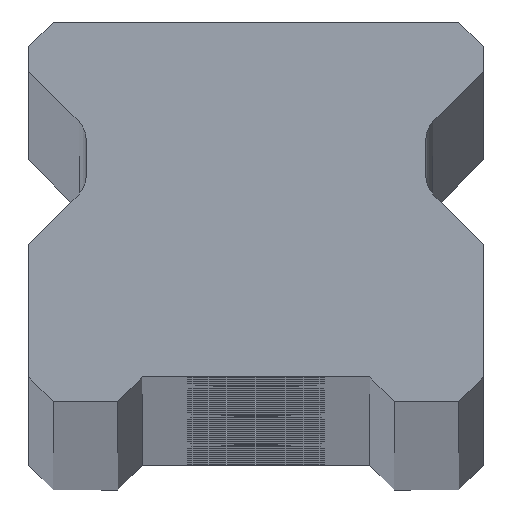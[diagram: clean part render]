
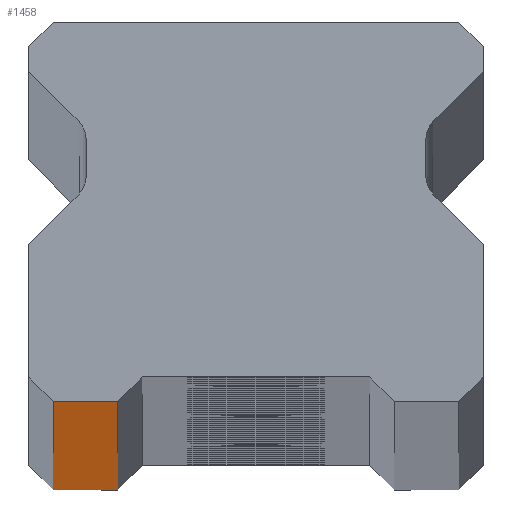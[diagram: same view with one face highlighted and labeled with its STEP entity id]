
A CAD part, top view. The second image highlights one B-rep face of the part: STEP entity #1458.
In plain terms, the highlighted planar face has unit normal (0, -1, 0).
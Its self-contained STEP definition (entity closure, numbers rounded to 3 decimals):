
#400 = DIRECTION ( 'NONE',  ( 0., 1., 0. ) ) ;
#589 = CARTESIAN_POINT ( 'NONE',  ( -10.25, 0., 1280. ) ) ;
#647 = CARTESIAN_POINT ( 'NONE',  ( -10.25, 0., 1280. ) ) ;
#999 = CARTESIAN_POINT ( 'NONE',  ( -10.25, 0., -1280. ) ) ;
#1188 = VERTEX_POINT ( 'NONE', #999 ) ;
#1204 = LINE ( 'NONE', #2188, #7187 ) ;
#1418 = EDGE_LOOP ( 'NONE', ( #1865, #7153, #2705, #6707 ) ) ;
#1458 = ADVANCED_FACE ( 'NONE', ( #3864 ), #6230, .F. ) ;
#1477 = VECTOR ( 'NONE', #5968, 1000. ) ;
#1556 = VERTEX_POINT ( 'NONE', #5011 ) ;
#1678 = LINE ( 'NONE', #4251, #1477 ) ;
#1729 = VERTEX_POINT ( 'NONE', #3039 ) ;
#1832 = LINE ( 'NONE', #589, #3275 ) ;
#1865 = ORIENTED_EDGE ( 'NONE', *, *, #3681, .T. ) ;
#2188 = CARTESIAN_POINT ( 'NONE',  ( 11.5, 0., 1280. ) ) ;
#2195 = CARTESIAN_POINT ( 'NONE',  ( 11.5, 0., 1280. ) ) ;
#2705 = ORIENTED_EDGE ( 'NONE', *, *, #3843, .F. ) ;
#2854 = CARTESIAN_POINT ( 'NONE',  ( -7., 0., -1280. ) ) ;
#2916 = AXIS2_PLACEMENT_3D ( 'NONE', #2195, #400, #7368 ) ;
#3039 = CARTESIAN_POINT ( 'NONE',  ( -7., 0., -1280. ) ) ;
#3275 = VECTOR ( 'NONE', #4091, 1000. ) ;
#3681 = EDGE_CURVE ( 'NONE', #1188, #1729, #1678, .T. ) ;
#3843 = EDGE_CURVE ( 'NONE', #4884, #1556, #1204, .T. ) ;
#3864 = FACE_OUTER_BOUND ( 'NONE', #1418, .T. ) ;
#3955 = EDGE_CURVE ( 'NONE', #1729, #1556, #7178, .T. ) ;
#4091 = DIRECTION ( 'NONE',  ( 0., 0., -1. ) ) ;
#4251 = CARTESIAN_POINT ( 'NONE',  ( 11.5, 0., -1280. ) ) ;
#4884 = VERTEX_POINT ( 'NONE', #647 ) ;
#5011 = CARTESIAN_POINT ( 'NONE',  ( -7., 0., 1280. ) ) ;
#5968 = DIRECTION ( 'NONE',  ( 1., 0., 0. ) ) ;
#6074 = EDGE_CURVE ( 'NONE', #4884, #1188, #1832, .T. ) ;
#6176 = VECTOR ( 'NONE', #6337, 1000. ) ;
#6230 = PLANE ( 'NONE',  #2916 ) ;
#6337 = DIRECTION ( 'NONE',  ( 0., 0., 1. ) ) ;
#6707 = ORIENTED_EDGE ( 'NONE', *, *, #6074, .T. ) ;
#7153 = ORIENTED_EDGE ( 'NONE', *, *, #3955, .T. ) ;
#7178 = LINE ( 'NONE', #2854, #6176 ) ;
#7187 = VECTOR ( 'NONE', #7458, 1000. ) ;
#7368 = DIRECTION ( 'NONE',  ( -1., 0., 0. ) ) ;
#7458 = DIRECTION ( 'NONE',  ( 1., 0., 0. ) ) ;
